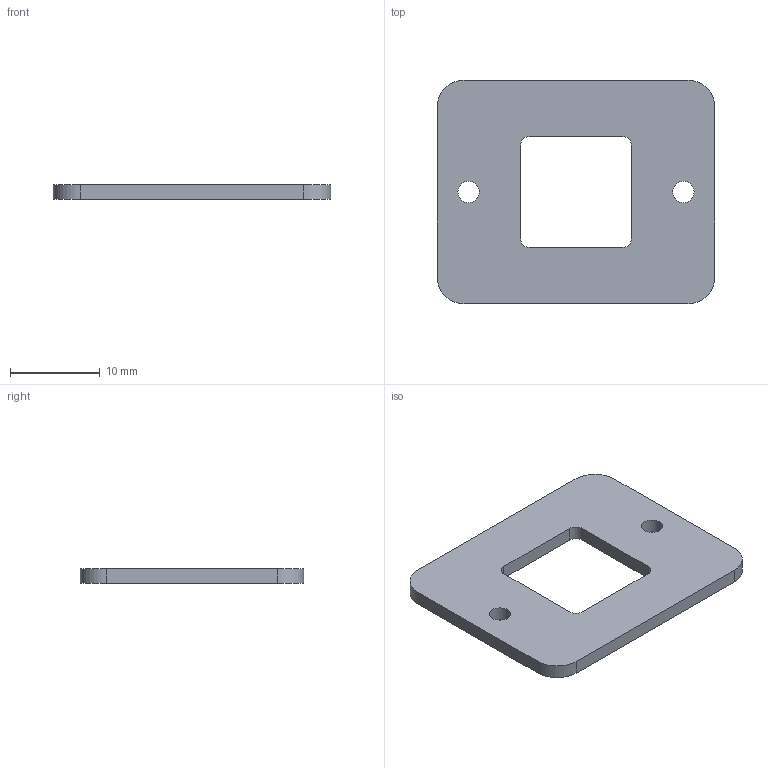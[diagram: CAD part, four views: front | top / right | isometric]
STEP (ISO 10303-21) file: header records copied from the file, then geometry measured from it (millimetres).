
FILE_DESCRIPTION(('Open CASCADE Model'),'2;1');
FILE_NAME('Open CASCADE Shape Model','2026-09-08T11:26:29',('Author'),( 'Open CASCADE'),'Open CASCADE STEP processor 7.8','build123d', 'Unknown');
FILE_SCHEMA(('AUTOMOTIVE_DESIGN { 1 0 10303 214 1 1 1 1 }'));
Length unit declared in the file: millimetre
Products named in the file (1): SOLID
Bounding box: 31 x 25 x 1.6 mm (x, y, z)
Volume: 968.5 mm3; surface area: 1482.3 mm2
Topology: 1 solids, 1 shells, 20 faces, 54 edges, 36 vertices
Faces by surface type: cylinder 10, plane 10
Full cylindrical faces by diameter (mm): 2.4 x2
Entity records: 1392 total; most frequent: CARTESIAN_POINT 279, DIRECTION 214, LINE 122, VECTOR 122, ORIENTED_EDGE 108, PCURVE 108, DEFINITIONAL_REPRESENTATION 108, EDGE_CURVE 54
